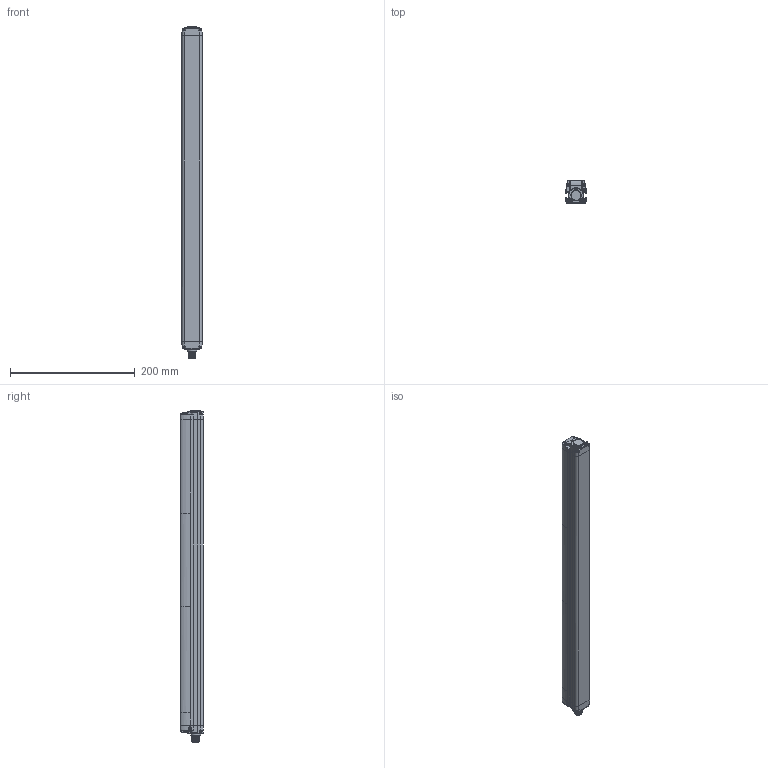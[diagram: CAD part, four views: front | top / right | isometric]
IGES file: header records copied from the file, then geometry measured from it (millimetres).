
Global section: file name: D:\Studi\DSD-0159.igs; preprocessor: I-DEAS 3D IGES Translator 11; date: 20080609.151844; units: millimetre
Bounding box: 32.3 x 36.9 x 533.34 mm (x, y, z)
Volume: 507911.7 mm3; surface area: 127644.9 mm2
Topology: 12 solids, 12 shells, 1624 faces, 6331 edges, 5178 vertices
Faces by surface type: bspline 1624
